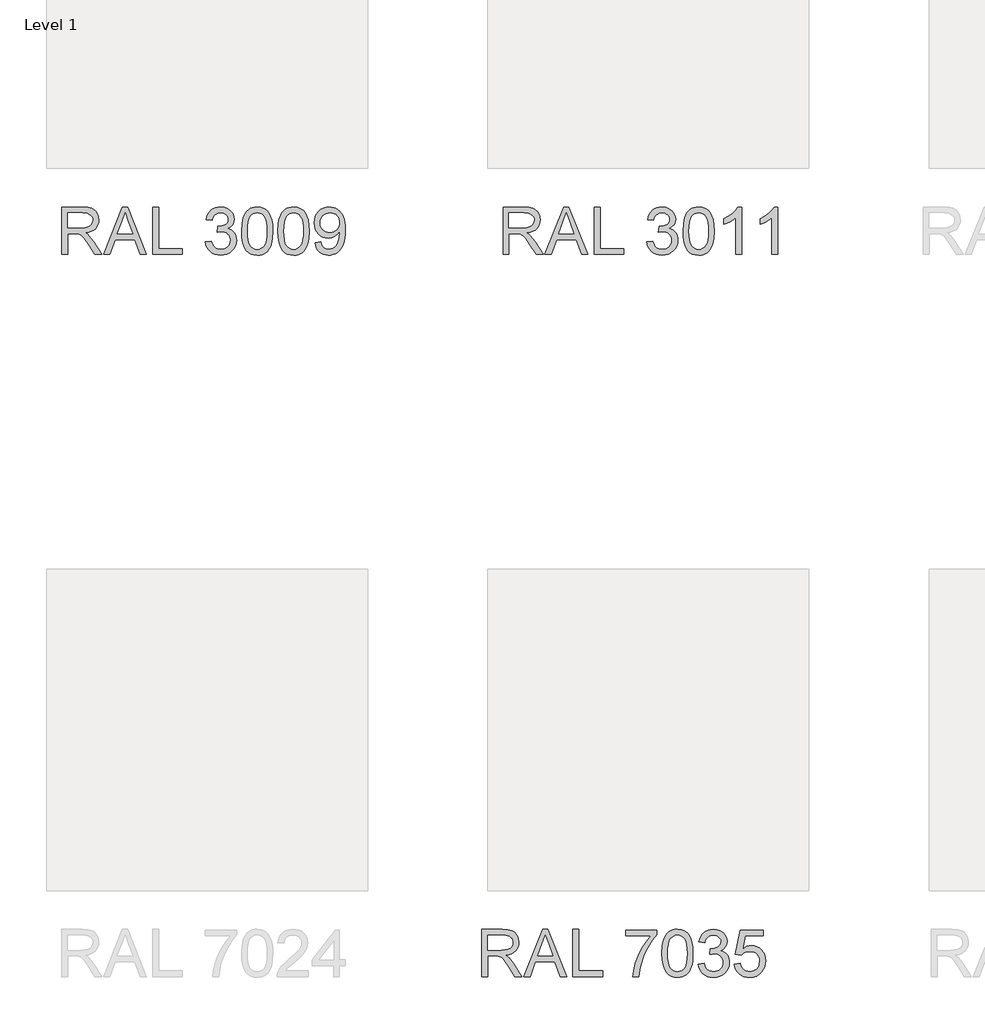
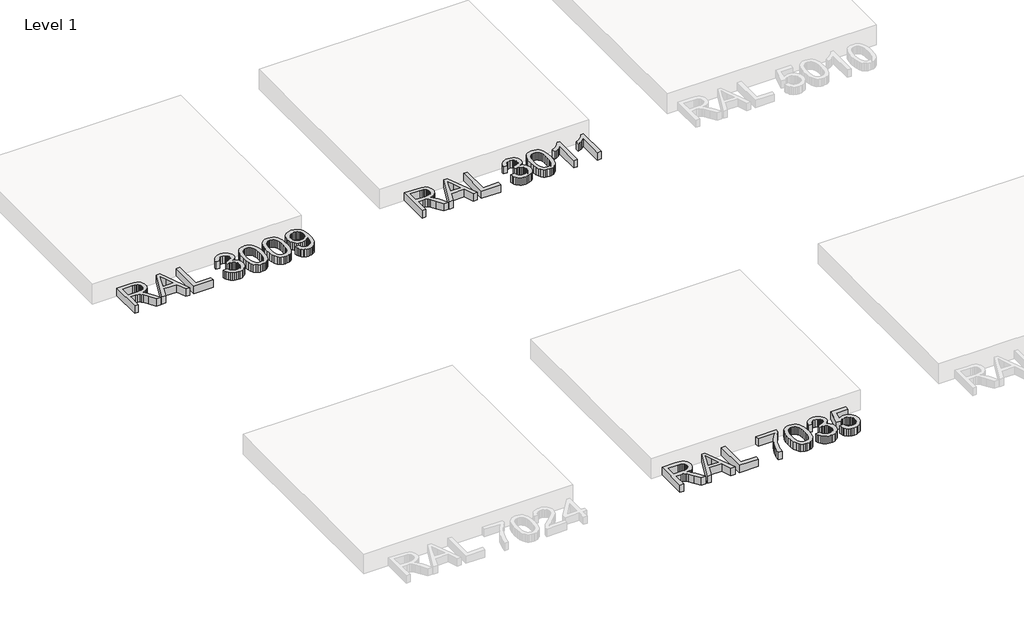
# One storey, part 4 of 27: 3 proxies.
"""IFC4 building model written with IfcOpenShell, lengths in millimetres."""

from ifc_helpers import new_model, si_unit, origin, origin_with_axes, place, context, project, spatial, polyline, outline, extrude, element, save

model = new_model("IFC4")

# Units and contexts
model_context = context("Model", 3, world=origin())
ifc_project = project(units=[si_unit("LENGTHUNIT", "METRE", prefix="MILLI")], contexts=[model_context])

# Site, building, storey
site = spatial("IfcSite", under=ifc_project)
building = spatial("IfcBuilding", under=site)
storey = spatial("IfcBuildingStorey", under=building, Name="Level 1", Elevation=0.0)

# Proxies
placement = place(None, origin())
element("IfcBuildingElementProxy", 1, Name="600mm Arial", ObjectType="600mm Arial", at=placement, inside=storey, context=model_context, shape_type="SweptSolid", body=[
    extrude(outline(polyline([(-7140.486023, -66508.2089819), (-7140.486023, -65917.4397512), (-6885.9187153, -65917.4397512), (-6817.4992441, -65921.4241262), (-6767.7215999, -65933.3772512), (-6748.5118643, -65942.8784531), (-6731.3393884, -65955.4445588), (-6716.204172, -65971.0755685), (-6703.1062153, -65989.7714819), (-6692.5368042, -66010.5271911), (-6684.9872249, -66032.3375877), (-6678.9475614, -66079.1224435), (-6681.4490638, -66109.4649915), (-6688.953571, -66137.3195588), (-6701.4610831, -66162.6861454), (-6718.9715999, -66185.5647512), (-6741.7104821, -66205.2252079), (-6769.9030903, -66220.9373473), (-6803.5494244, -66232.7011694), (-6842.6494845, -66240.5166742), (-6818.3105422, -66256.4181165), (-6800.6783307, -66272.1032127), (-6740.8225614, -66348.1128281), (-6642.312946, -66508.2089819), (-6728.1302537, -66508.2089819), (-6805.0052537, -66385.7570588), (-6860.5340999, -66304.6993665), (-6881.1771287, -66281.0635492), (-6899.548523, -66266.4060973), (-6934.6687153, -66252.3435973), (-6977.5052537, -66249.7474435), (-7066.6398691, -66249.7474435), (-7066.6398691, -66508.2089819), (-7140.486023, -66508.2089819)]), holes=[polyline([(-7066.6398691, -66175.9012896), (-6901.3514076, -66175.9012896), (-6853.8814557, -66173.2871069), (-6817.048523, -66165.4445588), (-6789.3201576, -66151.8508088), (-6769.1639076, -66131.9830204), (-6756.8862634, -66107.9505685), (-6752.7937153, -66081.8628281), (-6754.7453379, -66062.9776117), (-6760.6002057, -66045.8411935), (-6770.3583186, -66030.4535733), (-6784.0196768, -66016.8147512), (-6801.899785, -66005.645881), (-6824.314148, -65997.6681165), (-6851.2627658, -65992.8814579), (-6882.7456384, -65991.285905), (-7066.6398691, -65991.285905), (-7066.6398691, -66175.9012896)])]), origin_with_axes(), (0.0, 0.0, 1.0), 150.0),
    extrude(outline(polyline([(-6618.5148691, -66508.2089819), (-6382.6975614, -65917.4397512), (-6319.812946, -65917.4397512), (-6083.9956384, -66508.2089819), (-6162.0244845, -66508.2089819), (-6229.6687153, -66323.5935973), (-6472.986023, -66323.5935973), (-6540.486023, -66508.2089819), (-6618.5148691, -66508.2089819)]), holes=[polyline([(-6445.8706384, -66249.7474435), (-6256.6398691, -66249.7474435), (-6309.861023, -66104.5070588), (-6351.2552537, -65991.285905), (-6388.0340999, -66091.8147512), (-6445.8706384, -66249.7474435)])]), origin_with_axes(), (0.0, 0.0, 1.0), 150.0),
    extrude(outline(polyline([(-6005.1014076, -66508.2089819), (-6005.1014076, -65917.4397512), (-5931.2552537, -65917.4397512), (-5931.2552537, -66434.3628281), (-5635.8706384, -66434.3628281), (-5635.8706384, -66508.2089819), (-6005.1014076, -66508.2089819)])), origin_with_axes(), (0.0, 0.0, 1.0), 150.0),
    extrude(outline(polyline([(-5349.7167922, -66000.5166742), (-5349.7167922, -65926.6705204), (-4962.0244845, -65926.6705204), (-4962.0244845, -65986.3820588), (-5017.282898, -66056.3159531), (-5072.000446, -66145.2522512), (-5120.2636672, -66245.0779723), (-5156.1590999, -66347.6801358), (-5173.7552537, -66424.4469627), (-5183.562946, -66508.2089819), (-5257.4090999, -66508.2089819), (-5249.422321, -66432.0911935), (-5228.0581384, -66341.6224435), (-5193.8934749, -66245.7270108), (-5147.5052537, -66153.3291742), (-5093.3465999, -66069.80153), (-5035.8706384, -66000.5166742), (-5349.7167922, -66000.5166742)])), origin_with_axes(), (0.0, 0.0, 1.0), 150.0),
    extrude(outline(polyline([(-4897.4090999, -66217.5839819), (-4891.9824172, -66123.0226838), (-4885.1990638, -66082.9220228), (-4875.7023691, -66047.6080204), (-4863.532898, -66016.7922151), (-4848.7312153, -65990.1861454), (-4831.297321, -65967.7898113), (-4811.2312153, -65949.6032127), (-4788.4652898, -65935.5316983), (-4762.9319364, -65925.4806165), (-4734.6311552, -65919.4499675), (-4703.562946, -65917.4397512), (-4658.0581384, -65922.1993665), (-4617.312946, -65936.4782127), (-4583.2384268, -65959.7173954), (-4557.7456384, -65991.3580204), (-4538.4908307, -66031.129655), (-4523.1302537, -66078.7618665), (-4513.0701576, -66139.2486454), (-4509.7167922, -66217.5839819), (-4515.0893884, -66311.6044146), (-4521.8051335, -66351.5698593), (-4531.2071768, -66386.8387896), (-4543.2819965, -66417.6681165), (-4558.016071, -66444.3147512), (-4575.4094004, -66466.7786935), (-4595.4619845, -66485.0599435), (-4618.2549533, -66499.2261093), (-4643.8694364, -66509.3447992), (-4672.305434, -66515.4160132), (-4703.562946, -66517.4397512), (-4744.236023, -66513.9241262), (-4780.2937153, -66503.3772512), (-4811.736023, -66485.7991262), (-4838.562946, -66461.1897512), (-4864.3081384, -66416.7035733), (-4882.6975614, -66361.2738858), (-4893.7312153, -66294.9006887), (-4897.4090999, -66217.5839819)]), holes=[polyline([(-4823.562946, -66217.4397512), (-4821.3994845, -66281.6359651), (-4814.9090999, -66333.5996069), (-4804.0917922, -66373.3306766), (-4788.9475614, -66400.8291742), (-4770.6302537, -66419.5386093), (-4750.2937153, -66432.9024915), (-4727.937946, -66440.9208209), (-4703.562946, -66443.5935973), (-4679.187946, -66440.9118064), (-4656.8321768, -66432.8664338), (-4636.4956384, -66419.4574795), (-4618.1783307, -66400.6849435), (-4603.0340999, -66373.1413738), (-4592.2167922, -66333.4193185), (-4585.7264076, -66281.5187776), (-4583.562946, -66217.4397512), (-4585.6542922, -66154.942756), (-4591.9283307, -66103.8940781), (-4602.3850614, -66064.2937175), (-4617.0244845, -66036.1416742), (-4635.0353018, -66016.5172752), (-4655.6062153, -66002.4998473), (-4678.7372249, -65994.0893906), (-4704.4283307, -65991.285905), (-4728.6771287, -65993.7558569), (-4750.6542922, -66001.1657127), (-4770.359821, -66013.5154723), (-4787.7937153, -66030.8051358), (-4803.4427537, -66061.4541742), (-4814.6206384, -66102.7762896), (-4821.3273691, -66154.7714819), (-4823.562946, -66217.4397512)])]), origin_with_axes(), (0.0, 0.0, 1.0), 150.0),
    extrude(outline(polyline([(-4445.1014076, -66351.285905), (-4371.2552537, -66342.0551358), (-4354.7228018, -66388.4613858), (-4343.5764677, -66406.0124675), (-4330.5100614, -66419.7955204), (-4315.2261071, -66430.207179), (-4297.4271287, -66437.6440781), (-4277.1131263, -66442.1062175), (-4254.2840999, -66443.5935973), (-4227.5292922, -66441.5473233), (-4203.6590999, -66435.4085012), (-4182.673523, -66425.177131), (-4164.5725614, -66410.8532127), (-4149.9962393, -66393.5094627), (-4139.5845807, -66374.2185973), (-4133.3375855, -66352.9806165), (-4131.2552537, -66329.7955204), (-4133.3195566, -66307.7146911), (-4139.5124653, -66287.6260492), (-4149.8339797, -66269.5295949), (-4164.2840999, -66253.4253281), (-4181.9163114, -66240.2056766), (-4201.7840999, -66230.7630685), (-4223.8874653, -66225.0975036), (-4248.2264076, -66223.2089819), (-4271.5557345, -66225.2282127), (-4300.0052537, -66231.285905), (-4291.7840999, -66157.4397512), (-4279.9571768, -66158.3051358), (-4235.7143884, -66153.004655), (-4196.1590999, -66137.1032127), (-4179.8790518, -66125.0779723), (-4168.250446, -66110.2041742), (-4161.2732826, -66092.4818185), (-4158.9475614, -66071.910905), (-4160.6332585, -66055.2116863), (-4165.6903499, -66040.0178762), (-4174.1188355, -66026.3294747), (-4185.9187153, -66014.1464819), (-4200.3778499, -66004.1449795), (-4216.7840999, -65997.0010492), (-4255.437946, -65991.285905), (-4294.1639076, -65997.0551358), (-4310.876648, -66004.2666742), (-4325.8225614, -66014.3628281), (-4338.6320566, -66027.3435973), (-4348.9355422, -66043.2089819), (-4356.7330182, -66061.9589819), (-4362.0244845, -66083.5935973), (-4435.8706384, -66074.3628281), (-4427.1176335, -66039.1074194), (-4414.1278499, -66008.0527319), (-4396.9012874, -65981.1987656), (-4375.437946, -65958.5455204), (-4350.4139076, -65940.5617463), (-4322.5052537, -65927.7161935), (-4291.7119845, -65920.0088617), (-4258.0340999, -65917.4397512), (-4211.609821, -65922.5058569), (-4168.9715999, -65937.7041742), (-4133.0220807, -65961.6825396), (-4106.6639076, -65993.0887896), (-4090.4920326, -66029.2726838), (-4085.1014076, -66067.5839819), (-4090.2215999, -66103.2810973), (-4105.5821768, -66135.660905), (-4130.9667922, -66163.2450396), (-4166.1590999, -66184.5551358), (-4141.5497249, -66192.2534531), (-4119.9331384, -66203.2330204), (-4101.3093403, -66217.4938377), (-4085.6783307, -66235.035905), (-4073.3105422, -66255.42653), (-4064.4764076, -66278.2330204), (-4059.1759268, -66303.4553762), (-4057.4090999, -66331.0935973), (-4060.9427537, -66368.5575396), (-4071.5437153, -66403.0647512), (-4089.2119845, -66434.6152319), (-4113.9475614, -66463.2089819), (-4144.0827778, -66486.9349435), (-4177.9499653, -66503.8820588), (-4215.5491239, -66514.0503281), (-4256.8802537, -66517.4397512), (-4294.236023, -66514.5461213), (-4328.2744845, -66505.8652319), (-4358.9956384, -66491.3970829), (-4386.3994845, -66471.1416742), (-4409.3772489, -66446.2889098), (-4426.8201576, -66418.0286935), (-4438.7282105, -66386.3610252), (-4445.1014076, -66351.285905)])), origin_with_axes(), (0.0, 0.0, 1.0), 150.0),
    extrude(outline(polyline([(-3992.7937153, -66351.285905), (-3918.9475614, -66342.0551358), (-3913.4307345, -66365.7946189), (-3905.3898691, -66386.3880685), (-3894.8249653, -66403.8354843), (-3881.736023, -66418.1368665), (-3866.1500855, -66429.2741863), (-3848.094196, -66437.2294146), (-3827.5683547, -66442.0025516), (-3804.5725614, -66443.5935973), (-3776.4475614, -66441.3805564), (-3751.6398691, -66434.7414338), (-3730.1494845, -66423.6762295), (-3711.9764076, -66408.1849435), (-3697.5262874, -66389.0338016), (-3687.204773, -66366.98903), (-3681.0118643, -66342.0506286), (-3678.9475614, -66314.2185973), (-3680.8811552, -66287.9145108), (-3686.6819364, -66264.5310973), (-3696.3499052, -66244.0683569), (-3709.8850614, -66226.5262896), (-3727.3324773, -66212.4547752), (-3748.7372249, -66202.4036935), (-3774.0993042, -66196.3730444), (-3803.4187153, -66194.3628281), (-3839.2420326, -66197.5719627), (-3868.250446, -66207.1993665), (-3891.4175134, -66221.9469627), (-3909.7167922, -66240.5166742), (-3983.562946, -66231.285905), (-3918.9475614, -65926.6705204), (-3632.7937153, -65926.6705204), (-3632.7937153, -66000.5166742), (-3859.236023, -66000.5166742), (-3890.8225614, -66163.2089819), (-3864.7618643, -66144.5310973), (-3838.0701576, -66131.1897512), (-3810.7474412, -66123.1849435), (-3782.7937153, -66120.5166742), (-3746.8306744, -66123.8249675), (-3713.797321, -66133.7498473), (-3683.6936552, -66150.2913137), (-3656.5196768, -66173.4493665), (-3634.024184, -66201.8087415), (-3617.9559749, -66233.9541742), (-3608.3150494, -66269.8856646), (-3605.1014076, -66309.6032127), (-3607.9950374, -66347.8604242), (-3616.6759268, -66383.4493665), (-3631.1440759, -66416.3700396), (-3651.3994845, -66446.6224435), (-3682.0845807, -66477.6050156), (-3717.8898691, -66499.7354242), (-3758.8153499, -66513.0136694), (-3804.861023, -66517.4397512), (-3842.9694965, -66514.5957007), (-3877.391071, -66506.0635492), (-3908.1257465, -66491.8432968), (-3935.173523, -66471.9349435), (-3957.6780302, -66447.3300757), (-3974.782898, -66419.02028), (-3986.4881263, -66387.0055564), (-3992.7937153, -66351.285905)])), origin_with_axes(), (0.0, 0.0, 1.0), 150.0),
])
element("IfcBuildingElementProxy", 2, Name="600mm Arial", ObjectType="600mm Arial", at=placement, inside=storey, context=model_context, shape_type="SweptSolid", body=[
    extrude(outline(polyline([(-6876.4191783, -57508.2089819), (-6876.4191783, -56917.4397512), (-6621.8518706, -56917.4397512), (-6553.4323995, -56921.4241262), (-6503.6547552, -56933.3772512), (-6484.4450197, -56942.8784531), (-6467.2725437, -56955.4445588), (-6452.1373273, -56971.0755685), (-6439.0393706, -56989.7714819), (-6428.4699596, -57010.5271911), (-6420.9203802, -57032.3375877), (-6414.8807168, -57079.1224435), (-6417.3822192, -57109.4649915), (-6424.8867264, -57137.3195588), (-6437.3942384, -57162.6861454), (-6454.9047552, -57185.5647512), (-6477.6436374, -57205.2252079), (-6505.8362456, -57220.9373473), (-6539.4825798, -57232.7011694), (-6578.5826398, -57240.5166742), (-6554.2436975, -57256.4181165), (-6536.611486, -57272.1032127), (-6476.7557168, -57348.1128281), (-6378.2461014, -57508.2089819), (-6464.0634091, -57508.2089819), (-6540.9384091, -57385.7570588), (-6596.4672552, -57304.6993665), (-6617.1102841, -57281.0635492), (-6635.4816783, -57266.4060973), (-6670.6018706, -57252.3435973), (-6713.4384091, -57249.7474435), (-6802.5730245, -57249.7474435), (-6802.5730245, -57508.2089819), (-6876.4191783, -57508.2089819)]), holes=[polyline([(-6802.5730245, -57175.9012896), (-6637.2845629, -57175.9012896), (-6589.814611, -57173.2871069), (-6552.9816783, -57165.4445588), (-6525.2533129, -57151.8508088), (-6505.0970629, -57131.9830204), (-6492.8194187, -57107.9505685), (-6488.7268706, -57081.8628281), (-6490.6784932, -57062.9776117), (-6496.533361, -57045.8411935), (-6506.291474, -57030.4535733), (-6519.9528322, -57016.8147512), (-6537.8329403, -57005.645881), (-6560.2473033, -56997.6681165), (-6587.1959211, -56992.8814579), (-6618.6787937, -56991.285905), (-6802.5730245, -56991.285905), (-6802.5730245, -57175.9012896)])]), origin_with_axes(), (0.0, 0.0, 1.0), 150.0),
    extrude(outline(polyline([(-6354.4480245, -57508.2089819), (-6118.6307168, -56917.4397512), (-6055.7461014, -56917.4397512), (-5819.9287937, -57508.2089819), (-5897.9576398, -57508.2089819), (-5965.6018706, -57323.5935973), (-6208.9191783, -57323.5935973), (-6276.4191783, -57508.2089819), (-6354.4480245, -57508.2089819)]), holes=[polyline([(-6181.8037937, -57249.7474435), (-5992.5730245, -57249.7474435), (-6045.7941783, -57104.5070588), (-6087.1884091, -56991.285905), (-6123.9672552, -57091.8147512), (-6181.8037937, -57249.7474435)])]), origin_with_axes(), (0.0, 0.0, 1.0), 150.0),
    extrude(outline(polyline([(-5741.0345629, -57508.2089819), (-5741.0345629, -56917.4397512), (-5667.1884091, -56917.4397512), (-5667.1884091, -57434.3628281), (-5371.8037937, -57434.3628281), (-5371.8037937, -57508.2089819), (-5741.0345629, -57508.2089819)])), origin_with_axes(), (0.0, 0.0, 1.0), 150.0),
    extrude(outline(polyline([(-5085.6499475, -57351.285905), (-5011.8037937, -57342.0551358), (-4995.2713418, -57388.4613858), (-4984.1250076, -57406.0124675), (-4971.0586014, -57419.7955204), (-4955.7746471, -57430.207179), (-4937.9756687, -57437.6440781), (-4917.6616663, -57442.1062175), (-4894.8326398, -57443.5935973), (-4868.0778322, -57441.5473233), (-4844.2076398, -57435.4085012), (-4823.2220629, -57425.177131), (-4805.1211014, -57410.8532127), (-4790.5447793, -57393.5094627), (-4780.1331206, -57374.2185973), (-4773.8861254, -57352.9806165), (-4771.8037937, -57329.7955204), (-4773.8680966, -57307.7146911), (-4780.0610052, -57287.6260492), (-4790.3825197, -57269.5295949), (-4804.8326398, -57253.4253281), (-4822.4648514, -57240.2056766), (-4842.3326398, -57230.7630685), (-4864.4360052, -57225.0975036), (-4888.7749475, -57223.2089819), (-4912.1042745, -57225.2282127), (-4940.5537937, -57231.285905), (-4932.3326398, -57157.4397512), (-4920.5057168, -57158.3051358), (-4876.2629283, -57153.004655), (-4836.7076398, -57137.1032127), (-4820.4275918, -57125.0779723), (-4808.798986, -57110.2041742), (-4801.8218225, -57092.4818185), (-4799.4961014, -57071.910905), (-4801.1817985, -57055.2116863), (-4806.2388898, -57040.0178762), (-4814.6673754, -57026.3294747), (-4826.4672552, -57014.1464819), (-4840.9263898, -57004.1449795), (-4857.3326398, -56997.0010492), (-4895.986486, -56991.285905), (-4934.7124475, -56997.0551358), (-4951.4251879, -57004.2666742), (-4966.3711014, -57014.3628281), (-4979.1805966, -57027.3435973), (-4989.4840822, -57043.2089819), (-4997.2815581, -57061.9589819), (-5002.5730245, -57083.5935973), (-5076.4191783, -57074.3628281), (-5067.6661735, -57039.1074194), (-5054.6763898, -57008.0527319), (-5037.4498273, -56981.1987656), (-5015.986486, -56958.5455204), (-4990.9624475, -56940.5617463), (-4963.0537937, -56927.7161935), (-4932.2605245, -56920.0088617), (-4898.5826398, -56917.4397512), (-4852.158361, -56922.5058569), (-4809.5201398, -56937.7041742), (-4773.5706206, -56961.6825396), (-4747.2124475, -56993.0887896), (-4731.0405725, -57029.2726838), (-4725.6499475, -57067.5839819), (-4730.7701398, -57103.2810973), (-4746.1307168, -57135.660905), (-4771.5153322, -57163.2450396), (-4806.7076398, -57184.5551358), (-4782.0982648, -57192.2534531), (-4760.4816783, -57203.2330204), (-4741.8578802, -57217.4938377), (-4726.2268706, -57235.035905), (-4713.8590822, -57255.42653), (-4705.0249475, -57278.2330204), (-4699.7244668, -57303.4553762), (-4697.9576398, -57331.0935973), (-4701.4912937, -57368.5575396), (-4712.0922552, -57403.0647512), (-4729.7605245, -57434.6152319), (-4754.4961014, -57463.2089819), (-4784.6313177, -57486.9349435), (-4818.4985052, -57503.8820588), (-4856.0976639, -57514.0503281), (-4897.4287937, -57517.4397512), (-4934.7845629, -57514.5461213), (-4968.8230245, -57505.8652319), (-4999.5441783, -57491.3970829), (-5026.9480245, -57471.1416742), (-5049.9257889, -57446.2889098), (-5067.3686975, -57418.0286935), (-5079.2767504, -57386.3610252), (-5085.6499475, -57351.285905)])), origin_with_axes(), (0.0, 0.0, 1.0), 150.0),
    extrude(outline(polyline([(-4633.3422552, -57217.5839819), (-4627.9155725, -57123.0226838), (-4621.1322192, -57082.9220228), (-4611.6355245, -57047.6080204), (-4599.4660533, -57016.7922151), (-4584.6643706, -56990.1861454), (-4567.2304764, -56967.7898113), (-4547.1643706, -56949.6032127), (-4524.3984451, -56935.5316983), (-4498.8650918, -56925.4806165), (-4470.5643105, -56919.4499675), (-4439.4961014, -56917.4397512), (-4393.9912937, -56922.1993665), (-4353.2461014, -56936.4782127), (-4319.1715822, -56959.7173954), (-4293.6787937, -56991.3580204), (-4274.423986, -57031.129655), (-4259.0634091, -57078.7618665), (-4249.0033129, -57139.2486454), (-4245.6499475, -57217.5839819), (-4251.0225437, -57311.6044146), (-4257.7382889, -57351.5698593), (-4267.1403322, -57386.8387896), (-4279.2151519, -57417.6681165), (-4293.9492264, -57444.3147512), (-4311.3425557, -57466.7786935), (-4331.3951398, -57485.0599435), (-4354.1881086, -57499.2261093), (-4379.8025918, -57509.3447992), (-4408.2385894, -57515.4160132), (-4439.4961014, -57517.4397512), (-4480.1691783, -57513.9241262), (-4516.2268706, -57503.3772512), (-4547.6691783, -57485.7991262), (-4574.4961014, -57461.1897512), (-4600.2412937, -57416.7035733), (-4618.6307168, -57361.2738858), (-4629.6643706, -57294.9006887), (-4633.3422552, -57217.5839819)]), holes=[polyline([(-4559.4961014, -57217.4397512), (-4557.3326398, -57281.6359651), (-4550.8422552, -57333.5996069), (-4540.0249475, -57373.3306766), (-4524.8807168, -57400.8291742), (-4506.5634091, -57419.5386093), (-4486.2268706, -57432.9024915), (-4463.8711014, -57440.9208209), (-4439.4961014, -57443.5935973), (-4415.1211014, -57440.9118064), (-4392.7653322, -57432.8664338), (-4372.4287937, -57419.4574795), (-4354.111486, -57400.6849435), (-4338.9672552, -57373.1413738), (-4328.1499475, -57333.4193185), (-4321.6595629, -57281.5187776), (-4319.4961014, -57217.4397512), (-4321.5874475, -57154.942756), (-4327.861486, -57103.8940781), (-4338.3182168, -57064.2937175), (-4352.9576398, -57036.1416742), (-4370.9684572, -57016.5172752), (-4391.5393706, -57002.4998473), (-4414.6703802, -56994.0893906), (-4440.361486, -56991.285905), (-4464.6102841, -56993.7558569), (-4486.5874475, -57001.1657127), (-4506.2929764, -57013.5154723), (-4523.7268706, -57030.8051358), (-4539.3759091, -57061.4541742), (-4550.5537937, -57102.7762896), (-4557.2605245, -57154.7714819), (-4559.4961014, -57217.4397512)])]), origin_with_axes(), (0.0, 0.0, 1.0), 150.0),
    extrude(outline(polyline([(-3904.111486, -57508.2089819), (-3977.9576398, -57508.2089819), (-3977.9576398, -57047.8243665), (-4008.7869668, -57072.7582608), (-4047.9095629, -57097.6560973), (-4088.9792745, -57119.4169146), (-4125.6499475, -57134.9397512), (-4125.6499475, -57065.1320588), (-4067.6511495, -57033.5815781), (-4017.4047552, -56996.0455204), (-3977.7953802, -56956.129655), (-3951.7076398, -56917.4397512), (-3904.111486, -56917.4397512), (-3904.111486, -57508.2089819)])), origin_with_axes(), (0.0, 0.0, 1.0), 150.0),
    extrude(outline(polyline([(-3451.8037937, -57508.2089819), (-3525.6499475, -57508.2089819), (-3525.6499475, -57047.8243665), (-3556.4792745, -57072.7582608), (-3595.6018706, -57097.6560973), (-3636.6715822, -57119.4169146), (-3673.3422552, -57134.9397512), (-3673.3422552, -57065.1320588), (-3615.3434572, -57033.5815781), (-3565.0970629, -56996.0455204), (-3525.4876879, -56956.129655), (-3499.3999475, -56917.4397512), (-3451.8037937, -56917.4397512), (-3451.8037937, -57508.2089819)])), origin_with_axes(), (0.0, 0.0, 1.0), 150.0),
])
element("IfcBuildingElementProxy", 3, Name="600mm Arial", ObjectType="600mm Arial", at=placement, inside=storey, context=model_context, shape_type="SweptSolid", body=[
    extrude(outline(polyline([(-12376.4191783, -57508.2089819), (-12376.4191783, -56917.4397512), (-12121.8518706, -56917.4397512), (-12053.4323995, -56921.4241262), (-12003.6547552, -56933.3772512), (-11984.4450197, -56942.8784531), (-11967.2725437, -56955.4445588), (-11952.1373273, -56971.0755685), (-11939.0393706, -56989.7714819), (-11928.4699596, -57010.5271911), (-11920.9203802, -57032.3375877), (-11914.8807168, -57079.1224435), (-11917.3822192, -57109.4649915), (-11924.8867264, -57137.3195588), (-11937.3942384, -57162.6861454), (-11954.9047552, -57185.5647512), (-11977.6436374, -57205.2252079), (-12005.8362456, -57220.9373473), (-12039.4825798, -57232.7011694), (-12078.5826398, -57240.5166742), (-12054.2436975, -57256.4181165), (-12036.611486, -57272.1032127), (-11976.7557168, -57348.1128281), (-11878.2461014, -57508.2089819), (-11964.0634091, -57508.2089819), (-12040.9384091, -57385.7570588), (-12096.4672552, -57304.6993665), (-12117.1102841, -57281.0635492), (-12135.4816783, -57266.4060973), (-12170.6018706, -57252.3435973), (-12213.4384091, -57249.7474435), (-12302.5730245, -57249.7474435), (-12302.5730245, -57508.2089819), (-12376.4191783, -57508.2089819)]), holes=[polyline([(-12302.5730245, -57175.9012896), (-12137.2845629, -57175.9012896), (-12089.814611, -57173.2871069), (-12052.9816783, -57165.4445588), (-12025.2533129, -57151.8508088), (-12005.0970629, -57131.9830204), (-11992.8194187, -57107.9505685), (-11988.7268706, -57081.8628281), (-11990.6784932, -57062.9776117), (-11996.533361, -57045.8411935), (-12006.291474, -57030.4535733), (-12019.9528322, -57016.8147512), (-12037.8329403, -57005.645881), (-12060.2473033, -56997.6681165), (-12087.1959211, -56992.8814579), (-12118.6787937, -56991.285905), (-12302.5730245, -56991.285905), (-12302.5730245, -57175.9012896)])]), origin_with_axes(), (0.0, 0.0, 1.0), 150.0),
    extrude(outline(polyline([(-11854.4480245, -57508.2089819), (-11618.6307168, -56917.4397512), (-11555.7461014, -56917.4397512), (-11319.9287937, -57508.2089819), (-11397.9576398, -57508.2089819), (-11465.6018706, -57323.5935973), (-11708.9191783, -57323.5935973), (-11776.4191783, -57508.2089819), (-11854.4480245, -57508.2089819)]), holes=[polyline([(-11681.8037937, -57249.7474435), (-11492.5730245, -57249.7474435), (-11545.7941783, -57104.5070588), (-11587.1884091, -56991.285905), (-11623.9672552, -57091.8147512), (-11681.8037937, -57249.7474435)])]), origin_with_axes(), (0.0, 0.0, 1.0), 150.0),
    extrude(outline(polyline([(-11241.0345629, -57508.2089819), (-11241.0345629, -56917.4397512), (-11167.1884091, -56917.4397512), (-11167.1884091, -57434.3628281), (-10871.8037937, -57434.3628281), (-10871.8037937, -57508.2089819), (-11241.0345629, -57508.2089819)])), origin_with_axes(), (0.0, 0.0, 1.0), 150.0),
    extrude(outline(polyline([(-10585.6499475, -57351.285905), (-10511.8037937, -57342.0551358), (-10495.2713418, -57388.4613858), (-10484.1250076, -57406.0124675), (-10471.0586014, -57419.7955204), (-10455.7746471, -57430.207179), (-10437.9756687, -57437.6440781), (-10417.6616663, -57442.1062175), (-10394.8326398, -57443.5935973), (-10368.0778322, -57441.5473233), (-10344.2076398, -57435.4085012), (-10323.2220629, -57425.177131), (-10305.1211014, -57410.8532127), (-10290.5447793, -57393.5094627), (-10280.1331206, -57374.2185973), (-10273.8861254, -57352.9806165), (-10271.8037937, -57329.7955204), (-10273.8680966, -57307.7146911), (-10280.0610052, -57287.6260492), (-10290.3825197, -57269.5295949), (-10304.8326398, -57253.4253281), (-10322.4648514, -57240.2056766), (-10342.3326398, -57230.7630685), (-10364.4360052, -57225.0975036), (-10388.7749475, -57223.2089819), (-10412.1042745, -57225.2282127), (-10440.5537937, -57231.285905), (-10432.3326398, -57157.4397512), (-10420.5057168, -57158.3051358), (-10376.2629283, -57153.004655), (-10336.7076398, -57137.1032127), (-10320.4275918, -57125.0779723), (-10308.798986, -57110.2041742), (-10301.8218225, -57092.4818185), (-10299.4961014, -57071.910905), (-10301.1817985, -57055.2116863), (-10306.2388898, -57040.0178762), (-10314.6673754, -57026.3294747), (-10326.4672552, -57014.1464819), (-10340.9263898, -57004.1449795), (-10357.3326398, -56997.0010492), (-10395.986486, -56991.285905), (-10434.7124475, -56997.0551358), (-10451.4251879, -57004.2666742), (-10466.3711014, -57014.3628281), (-10479.1805966, -57027.3435973), (-10489.4840822, -57043.2089819), (-10497.2815581, -57061.9589819), (-10502.5730245, -57083.5935973), (-10576.4191783, -57074.3628281), (-10567.6661735, -57039.1074194), (-10554.6763898, -57008.0527319), (-10537.4498273, -56981.1987656), (-10515.986486, -56958.5455204), (-10490.9624475, -56940.5617463), (-10463.0537937, -56927.7161935), (-10432.2605245, -56920.0088617), (-10398.5826398, -56917.4397512), (-10352.158361, -56922.5058569), (-10309.5201398, -56937.7041742), (-10273.5706206, -56961.6825396), (-10247.2124475, -56993.0887896), (-10231.0405725, -57029.2726838), (-10225.6499475, -57067.5839819), (-10230.7701398, -57103.2810973), (-10246.1307168, -57135.660905), (-10271.5153322, -57163.2450396), (-10306.7076398, -57184.5551358), (-10282.0982648, -57192.2534531), (-10260.4816783, -57203.2330204), (-10241.8578802, -57217.4938377), (-10226.2268706, -57235.035905), (-10213.8590822, -57255.42653), (-10205.0249475, -57278.2330204), (-10199.7244668, -57303.4553762), (-10197.9576398, -57331.0935973), (-10201.4912937, -57368.5575396), (-10212.0922552, -57403.0647512), (-10229.7605245, -57434.6152319), (-10254.4961014, -57463.2089819), (-10284.6313177, -57486.9349435), (-10318.4985052, -57503.8820588), (-10356.0976639, -57514.0503281), (-10397.4287937, -57517.4397512), (-10434.7845629, -57514.5461213), (-10468.8230245, -57505.8652319), (-10499.5441783, -57491.3970829), (-10526.9480245, -57471.1416742), (-10549.9257889, -57446.2889098), (-10567.3686975, -57418.0286935), (-10579.2767504, -57386.3610252), (-10585.6499475, -57351.285905)])), origin_with_axes(), (0.0, 0.0, 1.0), 150.0),
    extrude(outline(polyline([(-10133.3422552, -57217.5839819), (-10127.9155725, -57123.0226838), (-10121.1322192, -57082.9220228), (-10111.6355245, -57047.6080204), (-10099.4660533, -57016.7922151), (-10084.6643706, -56990.1861454), (-10067.2304764, -56967.7898113), (-10047.1643706, -56949.6032127), (-10024.3984451, -56935.5316983), (-9998.8650918, -56925.4806165), (-9970.5643105, -56919.4499675), (-9939.4961014, -56917.4397512), (-9893.9912937, -56922.1993665), (-9853.2461014, -56936.4782127), (-9819.1715822, -56959.7173954), (-9793.6787937, -56991.3580204), (-9774.423986, -57031.129655), (-9759.0634091, -57078.7618665), (-9749.0033129, -57139.2486454), (-9745.6499475, -57217.5839819), (-9751.0225437, -57311.6044146), (-9757.7382889, -57351.5698593), (-9767.1403322, -57386.8387896), (-9779.2151519, -57417.6681165), (-9793.9492264, -57444.3147512), (-9811.3425557, -57466.7786935), (-9831.3951398, -57485.0599435), (-9854.1881086, -57499.2261093), (-9879.8025918, -57509.3447992), (-9908.2385894, -57515.4160132), (-9939.4961014, -57517.4397512), (-9980.1691783, -57513.9241262), (-10016.2268706, -57503.3772512), (-10047.6691783, -57485.7991262), (-10074.4961014, -57461.1897512), (-10100.2412937, -57416.7035733), (-10118.6307168, -57361.2738858), (-10129.6643706, -57294.9006887), (-10133.3422552, -57217.5839819)]), holes=[polyline([(-10059.4961014, -57217.4397512), (-10057.3326398, -57281.6359651), (-10050.8422552, -57333.5996069), (-10040.0249475, -57373.3306766), (-10024.8807168, -57400.8291742), (-10006.5634091, -57419.5386093), (-9986.2268706, -57432.9024915), (-9963.8711014, -57440.9208209), (-9939.4961014, -57443.5935973), (-9915.1211014, -57440.9118064), (-9892.7653322, -57432.8664338), (-9872.4287937, -57419.4574795), (-9854.111486, -57400.6849435), (-9838.9672552, -57373.1413738), (-9828.1499475, -57333.4193185), (-9821.6595629, -57281.5187776), (-9819.4961014, -57217.4397512), (-9821.5874475, -57154.942756), (-9827.861486, -57103.8940781), (-9838.3182168, -57064.2937175), (-9852.9576398, -57036.1416742), (-9870.9684572, -57016.5172752), (-9891.5393706, -57002.4998473), (-9914.6703802, -56994.0893906), (-9940.361486, -56991.285905), (-9964.6102841, -56993.7558569), (-9986.5874475, -57001.1657127), (-10006.2929764, -57013.5154723), (-10023.7268706, -57030.8051358), (-10039.3759091, -57061.4541742), (-10050.5537937, -57102.7762896), (-10057.2605245, -57154.7714819), (-10059.4961014, -57217.4397512)])]), origin_with_axes(), (0.0, 0.0, 1.0), 150.0),
    extrude(outline(polyline([(-9681.0345629, -57217.5839819), (-9675.6078802, -57123.0226838), (-9668.8245269, -57082.9220228), (-9659.3278322, -57047.6080204), (-9647.158361, -57016.7922151), (-9632.3566783, -56990.1861454), (-9614.9227841, -56967.7898113), (-9594.8566783, -56949.6032127), (-9572.0907528, -56935.5316983), (-9546.5573995, -56925.4806165), (-9518.2566182, -56919.4499675), (-9487.1884091, -56917.4397512), (-9441.6836014, -56922.1993665), (-9400.9384091, -56936.4782127), (-9366.8638898, -56959.7173954), (-9341.3711014, -56991.3580204), (-9322.1162937, -57031.129655), (-9306.7557168, -57078.7618665), (-9296.6956206, -57139.2486454), (-9293.3422552, -57217.5839819), (-9298.7148514, -57311.6044146), (-9305.4305966, -57351.5698593), (-9314.8326398, -57386.8387896), (-9326.9074596, -57417.6681165), (-9341.6415341, -57444.3147512), (-9359.0348634, -57466.7786935), (-9379.0874475, -57485.0599435), (-9401.8804163, -57499.2261093), (-9427.4948995, -57509.3447992), (-9455.9308971, -57515.4160132), (-9487.1884091, -57517.4397512), (-9527.861486, -57513.9241262), (-9563.9191783, -57503.3772512), (-9595.361486, -57485.7991262), (-9622.1884091, -57461.1897512), (-9647.9336014, -57416.7035733), (-9666.3230245, -57361.2738858), (-9677.3566783, -57294.9006887), (-9681.0345629, -57217.5839819)]), holes=[polyline([(-9607.1884091, -57217.4397512), (-9605.0249475, -57281.6359651), (-9598.5345629, -57333.5996069), (-9587.7172552, -57373.3306766), (-9572.5730245, -57400.8291742), (-9554.2557168, -57419.5386093), (-9533.9191783, -57432.9024915), (-9511.5634091, -57440.9208209), (-9487.1884091, -57443.5935973), (-9462.8134091, -57440.9118064), (-9440.4576398, -57432.8664338), (-9420.1211014, -57419.4574795), (-9401.8037937, -57400.6849435), (-9386.6595629, -57373.1413738), (-9375.8422552, -57333.4193185), (-9369.3518706, -57281.5187776), (-9367.1884091, -57217.4397512), (-9369.2797552, -57154.942756), (-9375.5537937, -57103.8940781), (-9386.0105245, -57064.2937175), (-9400.6499475, -57036.1416742), (-9418.6607648, -57016.5172752), (-9439.2316783, -57002.4998473), (-9462.3626879, -56994.0893906), (-9488.0537937, -56991.285905), (-9512.3025918, -56993.7558569), (-9534.2797552, -57001.1657127), (-9553.9852841, -57013.5154723), (-9571.4191783, -57030.8051358), (-9587.0682168, -57061.4541742), (-9598.2461014, -57102.7762896), (-9604.9528322, -57154.7714819), (-9607.1884091, -57217.4397512)])]), origin_with_axes(), (0.0, 0.0, 1.0), 150.0),
    extrude(outline(polyline([(-9219.4961014, -57360.5166742), (-9145.6499475, -57351.285905), (-9133.0297552, -57393.2029723), (-9123.7448995, -57409.1449795), (-9112.4768706, -57421.7426358), (-9099.3518706, -57431.3024314), (-9084.4961014, -57438.1308569), (-9049.5922552, -57443.5935973), (-9018.2761495, -57440.0779723), (-8989.8086014, -57429.5310973), (-8966.1547552, -57413.1068185), (-8949.2797552, -57391.9589819), (-8936.4973033, -57364.1585012), (-8925.1211014, -57327.7762896), (-8917.1162937, -57286.0214819), (-8914.4480245, -57242.1032127), (-8914.8807168, -57227.6801358), (-8940.4636495, -57258.9060973), (-8973.9432168, -57283.6416742), (-9012.9035533, -57299.7594627), (-9054.9287937, -57305.1320588), (-9090.0084211, -57301.8508088), (-9122.2665341, -57292.0070588), (-9151.7031326, -57275.6008088), (-9178.3182168, -57252.6320588), (-9200.3720028, -57224.2997271), (-9216.1247072, -57191.8027319), (-9225.5763298, -57155.1410733), (-9228.7268706, -57114.3147512), (-9225.4230846, -57072.1272512), (-9215.5117264, -57034.2666742), (-9198.9927961, -57000.7330204), (-9175.8662937, -56971.5262896), (-9147.7638298, -56947.863429), (-9116.3170148, -56930.9613858), (-9081.525849, -56920.8201598), (-9043.3903322, -56917.4397512), (-9015.2337817, -56919.3688377), (-8988.3122072, -56925.1560973), (-8962.6256086, -56934.80153), (-8938.173986, -56948.3051358), (-8915.7731447, -56965.3784531), (-8896.2388898, -56985.7330204), (-8879.5712216, -57009.3688377), (-8865.7701398, -57036.285905), (-8854.9483249, -57068.0347031), (-8847.2184572, -57106.1657127), (-8842.5805365, -57150.6789338), (-8841.0345629, -57201.5743665), (-8842.5760293, -57255.0253882), (-8847.2004283, -57302.7342223), (-8854.90776, -57344.7008689), (-8865.6980245, -57380.9253281), (-8879.5306567, -57412.2910132), (-8896.3650918, -57439.6813377), (-8916.2013298, -57463.0963016), (-8939.0393706, -57482.535905), (-8964.4194788, -57497.8063377), (-8991.8819187, -57508.7137896), (-9021.4266903, -57515.2582608), (-9053.0537937, -57517.4397512), (-9086.2178562, -57514.8661334), (-9116.1908129, -57507.14528), (-9142.9726639, -57494.2771911), (-9166.5634091, -57476.2618665), (-9186.3680966, -57453.5860853), (-9201.7917745, -57426.7366262), (-9212.8344427, -57395.7134891), (-9219.4961014, -57360.5166742)]), holes=[polyline([(-8914.8807168, -57112.5839819), (-8916.8729043, -57086.1176358), (-8922.8494668, -57062.535905), (-8932.8104043, -57041.8387896), (-8946.7557168, -57024.0262896), (-8964.0003081, -57009.7023713), (-8983.8590822, -56999.4710012), (-9006.3320389, -56993.332179), (-9031.4191783, -56991.285905), (-9057.3086014, -56993.4899314), (-9080.7461014, -57000.1020108), (-9101.7316783, -57011.122143), (-9120.2653322, -57026.5503281), (-9135.4095629, -57045.4851238), (-9146.2268706, -57067.0250877), (-9152.7172552, -57091.1702199), (-9154.8807168, -57117.9205204), (-9152.8344427, -57141.9124074), (-9146.6956206, -57163.55153), (-9136.4642504, -57182.8378882), (-9122.1403322, -57199.7714819), (-9104.3188177, -57213.559042), (-9083.5946591, -57223.4072992), (-9059.9678562, -57229.3162536), (-9033.4384091, -57231.285905), (-9008.6983249, -57229.3162536), (-8986.2569187, -57223.4072992), (-8966.1141903, -57213.559042), (-8948.2701398, -57199.7714819), (-8933.6622673, -57182.5043545), (-8923.2280725, -57162.2173954), (-8916.9675557, -57138.9106045), (-8914.8807168, -57112.5839819)])]), origin_with_axes(), (0.0, 0.0, 1.0), 150.0),
])

save(model, "model.ifc")
